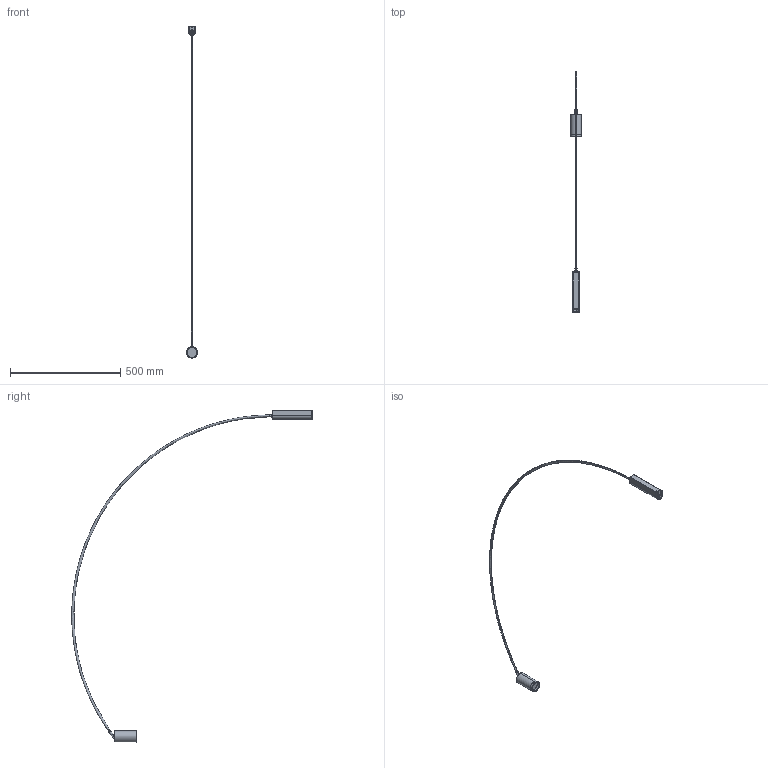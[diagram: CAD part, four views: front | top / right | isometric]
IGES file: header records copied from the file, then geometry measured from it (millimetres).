
Start section: SolidWorks IGES file using analytic representation for surfaces
Global section: file name: N:\- Ingeneria\DISEGNI\PRODOTTI\FOX\VERSIONE PARETE\Documenti\3d semplificato\fox wall\FOX_WALL_3D.IGS; native system: SolidWorks 2016; preprocessor: SolidWorks 2016; author: MarcoErba; date: 220310.183009; units: millimetre
Bounding box: 50 x 1090.87 x 1505.62 mm (x, y, z)
Surface area: 131877.3 mm2 (no closed solid volume)
Topology: 0 solids, 0 shells, 178 faces, 2715 edges, 2715 vertices
Faces by surface type: bspline 112, revolution 66
